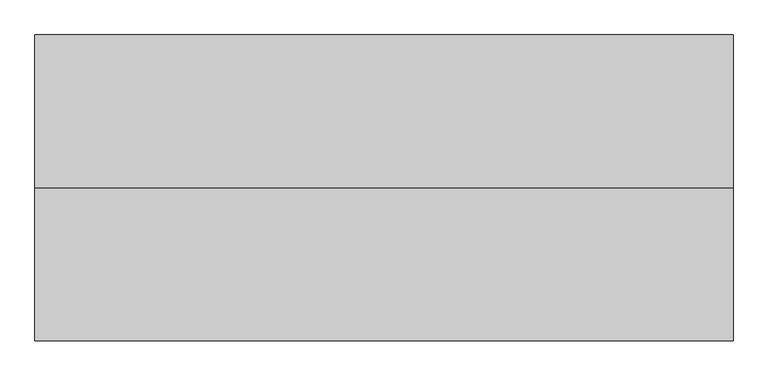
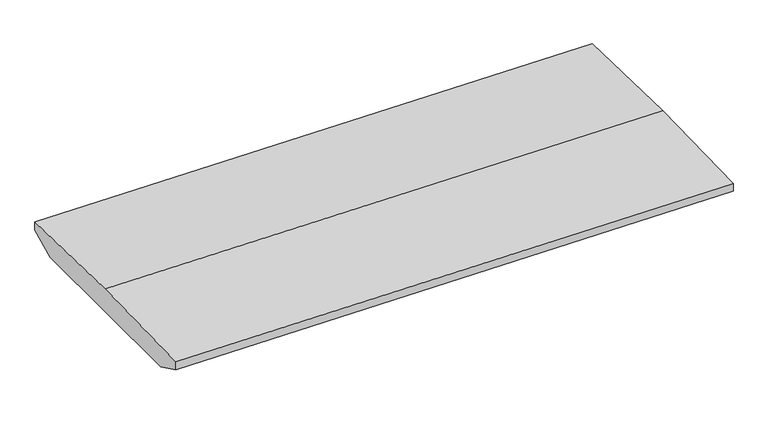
"""IFC4 building model written with IfcOpenShell, lengths in millimetres: proxy geometry, Tablier : Tablier."""

import ifcopenshell
import ifcopenshell.guid

model = None  # the IFC model being written
_history = None  # IfcOwnerHistory: only IFC2X3 demands one
_inside = {}  # id of a spatial element -> (the spatial element, [elements in it])
_under = {}  # id of a project, library or spatial element -> (it, [spatial elements below it])
_declared = {}  # id of a project -> (the project, [libraries it declares])
_typed = {}  # id of a type object -> (the type object, [elements of that type])
_made_of = {}  # id of a material, layer set ... -> (it, [elements and type objects made of it])


def new_model(schema):
    """Start an empty IFC model of exactly this schema.

    Asked for "IFC4X3", IfcOpenShell would pick the latest addendum, in which some entities
    have other attributes; the version numbers below select the first issue.
    IFC2X3 requires an IfcOwnerHistory on every rooted entity: one is made here for all.
    """
    global model, _history
    if schema == "IFC4X3":
        model = ifcopenshell.file(schema_version=(4, 3, 0, 0))
    else:
        model = ifcopenshell.file(schema=schema)
    _inside.clear()
    _under.clear()
    _declared.clear()
    _typed.clear()
    _made_of.clear()
    _history = None
    if model.schema == "IFC2X3":
        org = make("IfcOrganization", Name="unknown")
        user = make(
            "IfcPersonAndOrganization",
            ThePerson=make("IfcPerson", FamilyName="unknown"),
            TheOrganization=org,
        )
        app = make(
            "IfcApplication",
            ApplicationDeveloper=org,
            Version="unknown",
            ApplicationFullName="unknown",
            ApplicationIdentifier="unknown",
        )
        _history = make(
            "IfcOwnerHistory",
            OwningUser=user,
            OwningApplication=app,
            ChangeAction="ADDED",
            CreationDate=0,
        )
    return model


def make(cls, **values):
    """One entity of the class cls with the attributes given. An attribute that is None is left unset."""
    return model.create_entity(
        cls, **{name: value for name, value in values.items() if value is not None}
    )


def rooted(cls, **values):
    """An entity with a GlobalId (a new one), such as an element, a storey or a relation."""
    return make(cls, GlobalId=ifcopenshell.guid.new(), OwnerHistory=_history, **values)


def si_unit(unit_type, name, prefix=None):
    """IfcSIUnit, for example si_unit("LENGTHUNIT", "METRE", prefix="MILLI")."""
    return make("IfcSIUnit", UnitType=unit_type, Prefix=prefix, Name=name)


def assignment(units):
    """IfcUnitAssignment: the units of a project."""
    return None if units is None else make("IfcUnitAssignment", Units=units)


def point(xyz):
    """IfcCartesianPoint."""
    return None if xyz is None else make("IfcCartesianPoint", Coordinates=xyz)


def direction(xyz):
    """IfcDirection."""
    return None if xyz is None else make("IfcDirection", DirectionRatios=xyz)


def frame(location, z_axis=None, x_axis=None):
    """IfcAxis2Placement3D, a coordinate frame: its origin and axes. An axis left out is left unset."""
    return make(
        "IfcAxis2Placement3D",
        Location=point(location),
        Axis=direction(z_axis),
        RefDirection=direction(x_axis),
    )


def origin():
    """The frame at (0, 0, 0) with its axes left unset."""
    return frame((0.0, 0.0, 0.0))


def place(relative_to, where):
    """IfcLocalPlacement: puts the frame where relative to a parent placement (None: the world)."""
    return make(
        "IfcLocalPlacement", PlacementRelTo=relative_to, RelativePlacement=where
    )


def context(
    kind, dimensions, precision=None, world=None, true_north=None, identifier=None
):
    """IfcGeometricRepresentationContext, for example the 3D "Model" context."""
    return make(
        "IfcGeometricRepresentationContext",
        ContextIdentifier=identifier,
        ContextType=kind,
        CoordinateSpaceDimension=dimensions,
        Precision=precision,
        WorldCoordinateSystem=world,
        TrueNorth=true_north,
    )


def project(units=None, contexts=None):
    """IfcProject with its units and contexts."""
    return rooted(
        "IfcProject",
        Name="project",
        RepresentationContexts=contexts,
        UnitsInContext=assignment(units),
    )


def spatial(cls, under=None, at=None, **own):
    """A site, building, storey or space (cls), placed at a placement, below another one or the project."""
    s = rooted(cls, ObjectPlacement=at, **own)
    if under is not None:
        _under.setdefault(under.id(), (under, []))[1].append(s)
    return s


def faces_of(points, faces, orient=None, outer=None):
    """IfcFace entities. A face is a list of loops; a loop is a list of indices into points, from 0.

    orient and outer hold one flag for each loop. By default every Orientation is true, the
    first loop of a face is its IfcFaceOuterBound and the others are IfcFaceBound.
    """
    made = []
    for i, loops in enumerate(faces):
        bounds = []
        for j, loop in enumerate(loops):
            is_outer = j == 0 if outer is None else outer[i][j]
            bounds.append(
                make(
                    "IfcFaceOuterBound" if is_outer else "IfcFaceBound",
                    Bound=make("IfcPolyLoop", Polygon=[points[k] for k in loop]),
                    Orientation=True if orient is None else orient[i][j],
                )
            )
        made.append(make("IfcFace", Bounds=bounds))
    return made


def faceted_brep(points, faces, orient=None, outer=None, voids=None):
    """IfcFacetedBrep: a solid bounded by flat faces; with voids (closed shells), ...WithVoids."""
    shared = [point(p) for p in points]
    hull = make("IfcClosedShell", CfsFaces=faces_of(shared, faces, orient, outer))
    if voids is None:
        return make("IfcFacetedBrep", Outer=hull)
    return make(
        "IfcFacetedBrepWithVoids",
        Outer=hull,
        Voids=[
            make(cls, CfsFaces=faces_of(shared, fs, o, b)) for cls, fs, o, b in voids
        ],
    )


def shape(context_of_items, identifier, shape_type, items):
    """IfcShapeRepresentation: the items that make up one representation, for example the "Body"."""
    return make(
        "IfcShapeRepresentation",
        ContextOfItems=context_of_items,
        RepresentationIdentifier=identifier,
        RepresentationType=shape_type,
        Items=items,
    )


def source(mapping_origin, context_of_items, identifier, shape_type, items):
    """IfcRepresentationMap: a shape defined once, which mapped items show again and again."""
    return make(
        "IfcRepresentationMap",
        MappingOrigin=mapping_origin,
        MappedRepresentation=shape(context_of_items, identifier, shape_type, items),
    )


def transform(
    local_origin,
    x_axis=None,
    y_axis=None,
    z_axis=None,
    scale=None,
    scale2=None,
    scale3=None,
    uniform=True,
):
    """IfcCartesianTransformationOperator3D, or its non-uniform kind. x_axis, y_axis, z_axis: its Axis1, 2, 3."""
    if uniform:
        return make(
            "IfcCartesianTransformationOperator3D",
            Axis1=direction(x_axis),
            Axis2=direction(y_axis),
            LocalOrigin=point(local_origin),
            Scale=scale,
            Axis3=direction(z_axis),
        )
    return make(
        "IfcCartesianTransformationOperator3DnonUniform",
        Axis1=direction(x_axis),
        Axis2=direction(y_axis),
        LocalOrigin=point(local_origin),
        Scale=scale,
        Axis3=direction(z_axis),
        Scale2=scale2,
        Scale3=scale3,
    )


def mapped(mapping_source, mapping_target):
    """IfcMappedItem: shows the shape of a source again, moved by a transform."""
    return make(
        "IfcMappedItem", MappingSource=mapping_source, MappingTarget=mapping_target
    )


def made_of(thing, what):
    """Note that an element or type object is made of a material, layer set ...; save() writes the relation."""
    if what is not None:
        _made_of.setdefault(what.id(), (what, []))[1].append(thing)
    return thing


def element(
    cls,
    number,
    at=None,
    inside=None,
    cuts=None,
    type_object=None,
    material=None,
    context=None,
    identifier="Body",
    shape_type=None,
    held_by="IfcProductDefinitionShape",
    body=None,
    shapes=None,
    **own,
):
    """One element of the class cls, such as IfcWall. Its Tag is "e" and its number.

    at: its placement. inside: the storey or other place that contains it. cuts: it is an
    opening in that element (IfcRelVoidsElement). A single representation is given by context,
    identifier, shape_type and body (its items); several are given by shapes. held_by: the class
    of the entity that holds the representations. save() writes the other relations.
    """
    e = rooted(cls, Tag="e%d" % number, ObjectPlacement=at, **own)
    if body is not None:
        shapes = [shape(context, identifier, shape_type, body)]
    if shapes is not None:
        e.Representation = make(held_by, Representations=shapes)
    if inside is not None:
        _inside.setdefault(inside.id(), (inside, []))[1].append(e)
    if cuts is not None:
        rooted(
            "IfcRelVoidsElement", RelatingBuildingElement=cuts, RelatedOpeningElement=e
        )
    if type_object is not None:
        _typed.setdefault(type_object.id(), (type_object, []))[1].append(e)
    return made_of(e, material)


def aggregate(whole, parts):
    """IfcRelAggregates: a whole, such as a stair, and the parts it consists of."""
    return rooted("IfcRelAggregates", RelatingObject=whole, RelatedObjects=parts)


def save(model, path):
    """Write the relations noted so far, then the file.

    IfcRelAggregates (storeys below a building ...), IfcRelContainedInSpatialStructure (elements
    in a storey), IfcRelDefinesByType, IfcRelAssociatesMaterial and IfcRelDeclares: one each for
    every whole, place, type object, material and project.
    """
    for whole, parts in _under.values():
        aggregate(whole, parts)
    for where, things in _inside.values():
        rooted(
            "IfcRelContainedInSpatialStructure",
            RelatedElements=things,
            RelatingStructure=where,
        )
    for kind, things in _typed.values():
        rooted("IfcRelDefinesByType", RelatedObjects=things, RelatingType=kind)
    for what, things in _made_of.values():
        rooted("IfcRelAssociatesMaterial", RelatedObjects=things, RelatingMaterial=what)
    for by, libraries in _declared.values():
        rooted("IfcRelDeclares", RelatingContext=by, RelatedDefinitions=libraries)
    model.write(path)


def generic_models_845ab030(model_context):
    return source(origin(), model_context, "Body", "Brep", [
        faceted_brep([(6850.0, -3000.0, 4518.0), (6850.0, -2350.0, 4193.0), (6850.0, 2350.0, 4193.0), (6850.0, 3000.0, 4518.0), (6850.0, 3000.0, 4718.0), (6850.0, 0.0, 4793.0), (6850.0, -3000.0, 4718.0), (-6850.0, -3000.0, 4671.0), (-6850.0, -3000.0, 4871.0), (-6850.0, 0.0, 4946.0), (-6850.0, 3000.0, 4871.0), (-6850.0, 3000.0, 4671.0), (-6850.0, 2350.0, 4346.0), (-6850.0, -2350.0, 4346.0)], [[[0, 1, 2, 3, 4, 5, 6]], [[7, 8, 9, 10, 11, 12, 13]], [[7, 13, 1, 0]], [[13, 12, 2, 1]], [[12, 11, 3, 2]], [[11, 10, 4, 3]], [[10, 9, 5, 4]], [[9, 8, 6, 5]], [[8, 7, 0, 6]]]),
    ])


if __name__ == "__main__":
    model = new_model("IFC4")
    model_context = context("Model", 3, world=origin())
    ifc_project = project(units=[si_unit("LENGTHUNIT", "METRE", prefix="MILLI")], contexts=[model_context])
    site = spatial("IfcSite", under=ifc_project)
    building = spatial("IfcBuilding", under=site)
    placement = place(None, origin())
    generic_models_shape = generic_models_845ab030(model_context)
    element("IfcBuildingElementProxy", 1, Name="Tablier : Tablier", ObjectType="Tablier : Tablier", at=placement, inside=building, context=model_context, shape_type="MappedRepresentation", body=[
        mapped(generic_models_shape, transform((0.0, 0.0, 0.0), x_axis=(1.0, 0.0, 0.0), y_axis=(0.0, 1.0, 0.0), z_axis=(0.0, 0.0, 1.0))),
    ])
    save(model, "model.ifc")
